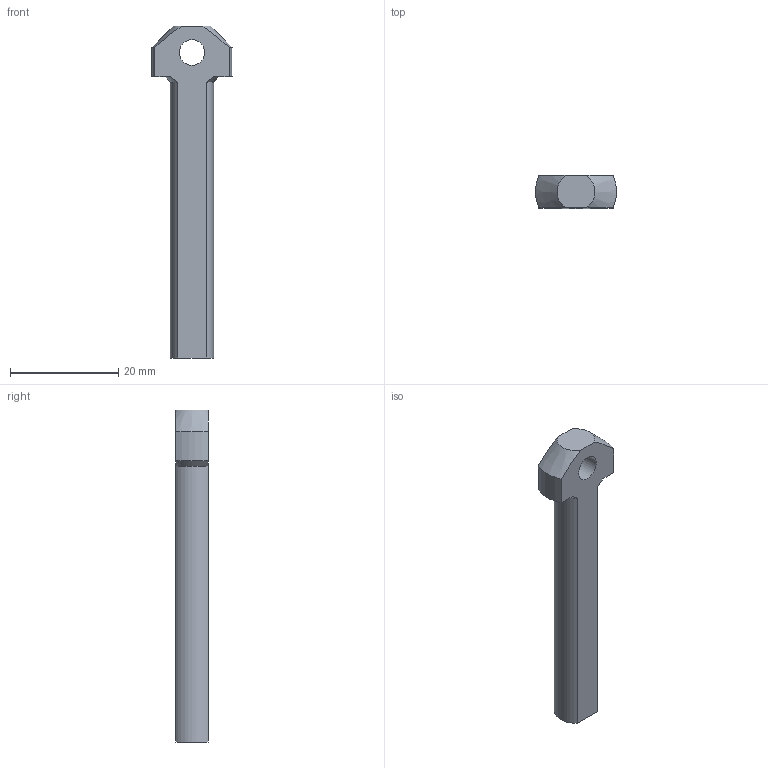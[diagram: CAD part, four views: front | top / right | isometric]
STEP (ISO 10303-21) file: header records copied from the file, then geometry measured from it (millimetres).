
FILE_DESCRIPTION(/* description */ (''),/* implementation_level */ '2;1');
FILE_NAME(/* name */ '4-52-2 Shock plunger.step',/* time_stamp */ '2025-05-10T22:21:30+02:00',/* author */ (''),/* organization */ (''),/* preprocessor_version */ 'ST-DEVELOPER v20.1',/* originating_system */ 'Autodesk Translation Framework v14.4.0.0',/* authorisation */ '');
FILE_SCHEMA (('AUTOMOTIVE_DESIGN { 1 0 10303 214 3 1 1 }'));
Length unit declared in the file: millimetre
Products named in the file (1): 4-52-2 Shock plunger
Bounding box: 14.95 x 6 x 61.39 mm (x, y, z)
Volume: 2728.7 mm3; surface area: 1917.1 mm2
Topology: 1 solids, 1 shells, 17 faces, 42 edges, 28 vertices
Faces by surface type: plane 7, cylinder 6, cone 4
Full cylindrical faces by diameter (mm): 4.1 x1, 4.7 x1
Entity records: 548 total; most frequent: CARTESIAN_POINT 104, DIRECTION 86, ORIENTED_EDGE 84, EDGE_CURVE 42, AXIS2_PLACEMENT_3D 34, VERTEX_POINT 28, EDGE_LOOP 20, LINE 18
